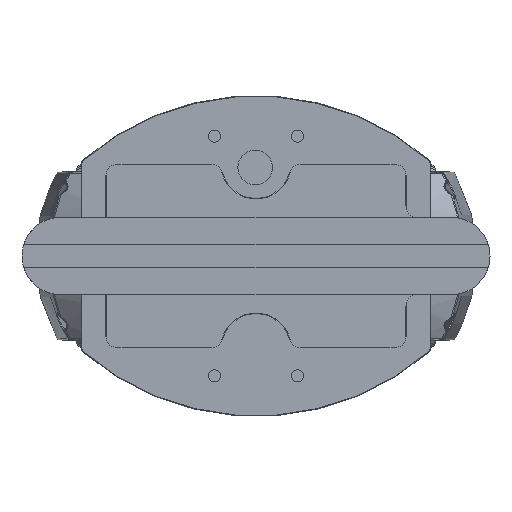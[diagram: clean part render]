
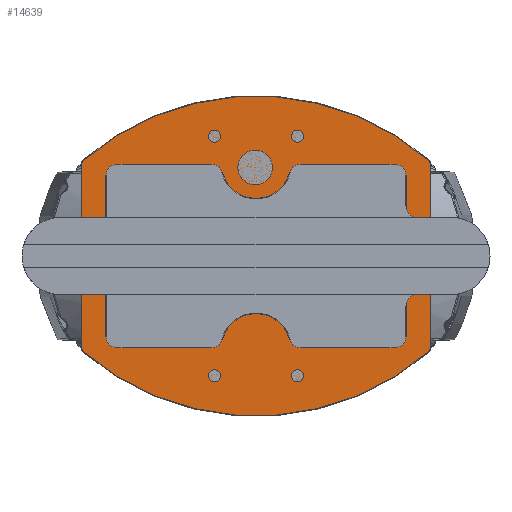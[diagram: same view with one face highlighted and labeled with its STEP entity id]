
A CAD part, front view. The second image highlights one B-rep face of the part: STEP entity #14639.
In plain terms, the highlighted planar face has unit normal (0, -1, 0).
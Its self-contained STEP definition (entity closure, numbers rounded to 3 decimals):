
#14247=CARTESIAN_POINT('',(74.57,-1.,
41.778));
#14248=CARTESIAN_POINT('',(74.77,-1.,
41.609));
#14249=CARTESIAN_POINT('',(75.107,-1.,
41.229));
#14250=CARTESIAN_POINT('',(75.446,-1.,
40.501));
#14251=CARTESIAN_POINT('',(75.524,-1.,40.));
#14252=CARTESIAN_POINT('',(75.528,-1.,39.736));
#14254=DIRECTION('',(0.,0.,-1.));
#14255=VECTOR('',#14254,24.383);
#14256=CARTESIAN_POINT('',(75.528,-1.,39.736));
#14257=LINE('',#14256,#14255);
#14258=CARTESIAN_POINT('',(73.778,-1.,15.353));
#14259=DIRECTION('',(0.,1.,0.));
#14260=DIRECTION('',(1.,0.,0.));
#14261=AXIS2_PLACEMENT_3D('',#14258,#14259,#14260);
#14263=CARTESIAN_POINT('',(86.476,-1.,0.));
#14264=DIRECTION('',(0.,-1.,0.));
#14265=DIRECTION('',(-0.637,0.,0.771));
#14266=AXIS2_PLACEMENT_3D('',#14263,#14264,#14265);
#14268=CARTESIAN_POINT('',(73.778,-1.,-15.353));
#14269=DIRECTION('',(0.,1.,0.));
#14270=DIRECTION('',(0.637,0.,0.771));
#14271=AXIS2_PLACEMENT_3D('',#14268,#14269,#14270);
#14273=DIRECTION('',(0.,0.,-1.));
#14274=VECTOR('',#14273,24.383);
#14275=CARTESIAN_POINT('',(75.528,-1.,-15.353));
#14276=LINE('',#14275,#14274);
#14277=CARTESIAN_POINT('',(75.528,-1.,-39.736));
#14278=CARTESIAN_POINT('',(75.523,-1.,-40.006));
#14279=CARTESIAN_POINT('',(75.442,-1.,
-40.515));
#14280=CARTESIAN_POINT('',(75.099,-1.,
-41.24));
#14281=CARTESIAN_POINT('',(74.766,-1.,
-41.612));
#14282=CARTESIAN_POINT('',(74.57,-1.,
-41.778));
#14284=CARTESIAN_POINT('',(0.,-1.,45.245));
#14285=DIRECTION('',(0.,1.,0.));
#14286=DIRECTION('',(0.651,0.,-0.759));
#14287=AXIS2_PLACEMENT_3D('',#14284,#14285,#14286);
#14289=CARTESIAN_POINT('',(-74.57,-1.,
-41.778));
#14290=CARTESIAN_POINT('',(-74.77,-1.,
-41.609));
#14291=CARTESIAN_POINT('',(-75.107,-1.,
-41.229));
#14292=CARTESIAN_POINT('',(-75.446,-1.,
-40.501));
#14293=CARTESIAN_POINT('',(-75.524,-1.,-40.));
#14294=CARTESIAN_POINT('',(-75.528,-1.,-39.736));
#14296=DIRECTION('',(0.,0.,1.));
#14297=VECTOR('',#14296,24.383);
#14298=CARTESIAN_POINT('',(-75.528,-1.,-39.736));
#14299=LINE('',#14298,#14297);
#14300=CARTESIAN_POINT('',(-73.778,-1.,-15.353));
#14301=DIRECTION('',(0.,1.,0.));
#14302=DIRECTION('',(-1.,0.,0.));
#14303=AXIS2_PLACEMENT_3D('',#14300,#14301,#14302);
#14305=CARTESIAN_POINT('',(-86.476,-1.,0.));
#14306=DIRECTION('',(0.,-1.,0.));
#14307=DIRECTION('',(0.637,0.,-0.771));
#14308=AXIS2_PLACEMENT_3D('',#14305,#14306,#14307);
#14310=CARTESIAN_POINT('',(-73.778,-1.,15.353));
#14311=DIRECTION('',(0.,1.,0.));
#14312=DIRECTION('',(-0.637,0.,-0.771));
#14313=AXIS2_PLACEMENT_3D('',#14310,#14311,#14312);
#14315=DIRECTION('',(0.,0.,1.));
#14316=VECTOR('',#14315,24.383);
#14317=CARTESIAN_POINT('',(-75.528,-1.,15.353));
#14318=LINE('',#14317,#14316);
#14319=CARTESIAN_POINT('',(-75.528,-1.,39.736));
#14320=CARTESIAN_POINT('',(-75.523,-1.,40.006));
#14321=CARTESIAN_POINT('',(-75.442,-1.,
40.515));
#14322=CARTESIAN_POINT('',(-75.099,-1.,
41.24));
#14323=CARTESIAN_POINT('',(-74.766,-1.,
41.612));
#14324=CARTESIAN_POINT('',(-74.57,-1.,
41.778));
#14326=CARTESIAN_POINT('',(0.,-1.,-45.245));
#14327=DIRECTION('',(0.,1.,0.));
#14328=DIRECTION('',(-0.651,0.,0.759));
#14329=AXIS2_PLACEMENT_3D('',#14326,#14327,#14328);
#14556=VERTEX_POINT('',#14247);
#14557=VERTEX_POINT('',#14252);
#14560=CARTESIAN_POINT('',(75.528,-1.,15.353));
#14561=VERTEX_POINT('',#14560);
#14562=CARTESIAN_POINT('',(74.893,-1.,14.004));
#14563=VERTEX_POINT('',#14562);
#14564=CARTESIAN_POINT('',(74.893,-1.,-14.004));
#14565=VERTEX_POINT('',#14564);
#14566=CARTESIAN_POINT('',(75.528,-1.,-15.353));
#14567=VERTEX_POINT('',#14566);
#14572=CARTESIAN_POINT('',(75.528,-1.,-39.736));
#14573=VERTEX_POINT('',#14572);
#14575=VERTEX_POINT('',#14282);
#14578=CARTESIAN_POINT('',(-74.571,-1.,-41.778));
#14579=VERTEX_POINT('',#14578);
#14581=VERTEX_POINT('',#14294);
#14584=CARTESIAN_POINT('',(-75.528,-1.,-15.353));
#14585=VERTEX_POINT('',#14584);
#14586=CARTESIAN_POINT('',(-74.893,-1.,-14.004));
#14587=VERTEX_POINT('',#14586);
#14588=CARTESIAN_POINT('',(-74.893,-1.,14.004));
#14589=VERTEX_POINT('',#14588);
#14590=CARTESIAN_POINT('',(-75.528,-1.,15.353));
#14591=VERTEX_POINT('',#14590);
#14596=CARTESIAN_POINT('',(-75.528,-1.,39.736));
#14597=VERTEX_POINT('',#14596);
#14599=VERTEX_POINT('',#14324);
#14600=CARTESIAN_POINT('',(0.,-1.,0.));
#14601=DIRECTION('',(0.,-1.,0.));
#14602=DIRECTION('',(0.,0.,1.));
#14603=AXIS2_PLACEMENT_3D('',#14600,#14601,#14602);
#14604=PLANE('',#14603);
#14606=ORIENTED_EDGE('',*,*,#14605,.T.);
#14608=ORIENTED_EDGE('',*,*,#14607,.T.);
#14610=ORIENTED_EDGE('',*,*,#14609,.T.);
#14612=ORIENTED_EDGE('',*,*,#14611,.T.);
#14614=ORIENTED_EDGE('',*,*,#14613,.T.);
#14616=ORIENTED_EDGE('',*,*,#14615,.T.);
#14618=ORIENTED_EDGE('',*,*,#14617,.T.);
#14620=ORIENTED_EDGE('',*,*,#14619,.T.);
#14622=ORIENTED_EDGE('',*,*,#14621,.T.);
#14624=ORIENTED_EDGE('',*,*,#14623,.T.);
#14626=ORIENTED_EDGE('',*,*,#14625,.T.);
#14628=ORIENTED_EDGE('',*,*,#14627,.T.);
#14630=ORIENTED_EDGE('',*,*,#14629,.T.);
#14632=ORIENTED_EDGE('',*,*,#14631,.T.);
#14634=ORIENTED_EDGE('',*,*,#14633,.T.);
#14636=ORIENTED_EDGE('',*,*,#14635,.T.);
#14637=EDGE_LOOP('',(#14606,#14608,#14610,#14612,#14614,#14616,#14618,#14620,
#14622,#14624,#14626,#14628,#14630,#14632,#14634,#14636));
#14638=FACE_OUTER_BOUND('',#14637,.F.);
#14253=B_SPLINE_CURVE_WITH_KNOTS('',3,(#14247,#14248,#14249,#14250,#14251,
#14252),.UNSPECIFIED.,.F.,.F.,(4,1,1,4),(0.,0.333,
0.667,1.),.UNSPECIFIED.);
#14262=CIRCLE('',#14261,1.75);
#14267=CIRCLE('',#14266,18.174);
#14272=CIRCLE('',#14271,1.75);
#14283=B_SPLINE_CURVE_WITH_KNOTS('',3,(#14277,#14278,#14279,#14280,#14281,
#14282),.UNSPECIFIED.,.F.,.F.,(4,1,1,4),(0.,0.333,
0.667,1.),.UNSPECIFIED.);
#14288=CIRCLE('',#14287,114.603);
#14295=B_SPLINE_CURVE_WITH_KNOTS('',3,(#14289,#14290,#14291,#14292,#14293,
#14294),.UNSPECIFIED.,.F.,.F.,(4,1,1,4),(0.,0.333,
0.667,1.),.UNSPECIFIED.);
#14304=CIRCLE('',#14303,1.75);
#14309=CIRCLE('',#14308,18.174);
#14314=CIRCLE('',#14313,1.75);
#14325=B_SPLINE_CURVE_WITH_KNOTS('',3,(#14319,#14320,#14321,#14322,#14323,
#14324),.UNSPECIFIED.,.F.,.F.,(4,1,1,4),(0.,0.333,
0.667,1.),.UNSPECIFIED.);
#14330=CIRCLE('',#14329,114.603);
#14605=EDGE_CURVE('',#14556,#14557,#14253,.T.);
#14607=EDGE_CURVE('',#14557,#14561,#14257,.T.);
#14609=EDGE_CURVE('',#14561,#14563,#14262,.T.);
#14611=EDGE_CURVE('',#14563,#14565,#14267,.T.);
#14613=EDGE_CURVE('',#14565,#14567,#14272,.T.);
#14615=EDGE_CURVE('',#14567,#14573,#14276,.T.);
#14617=EDGE_CURVE('',#14573,#14575,#14283,.T.);
#14619=EDGE_CURVE('',#14575,#14579,#14288,.T.);
#14621=EDGE_CURVE('',#14579,#14581,#14295,.T.);
#14623=EDGE_CURVE('',#14581,#14585,#14299,.T.);
#14625=EDGE_CURVE('',#14585,#14587,#14304,.T.);
#14627=EDGE_CURVE('',#14587,#14589,#14309,.T.);
#14629=EDGE_CURVE('',#14589,#14591,#14314,.T.);
#14631=EDGE_CURVE('',#14591,#14597,#14318,.T.);
#14633=EDGE_CURVE('',#14597,#14599,#14325,.T.);
#14635=EDGE_CURVE('',#14599,#14556,#14330,.T.);
#14639=ADVANCED_FACE('',(#14638),#14604,.T.);
